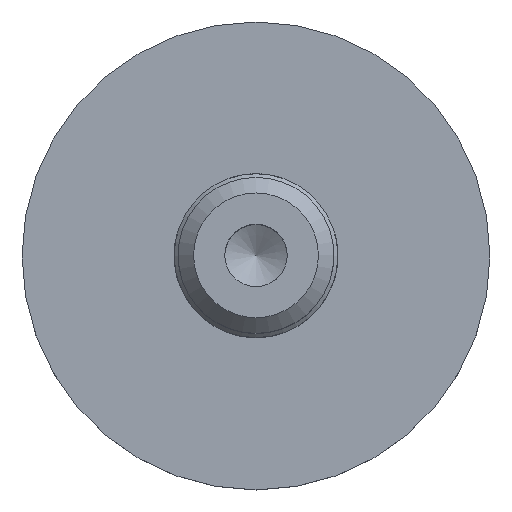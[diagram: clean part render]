
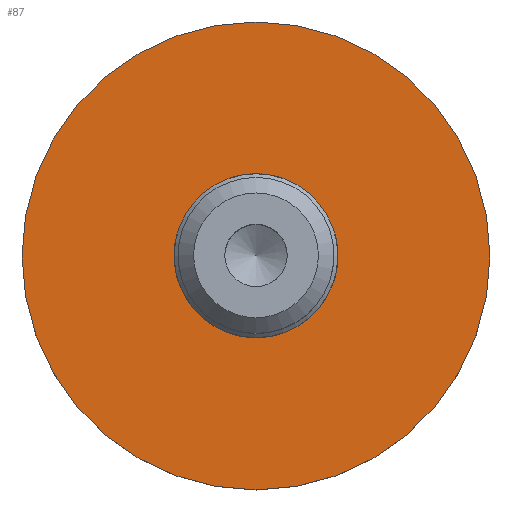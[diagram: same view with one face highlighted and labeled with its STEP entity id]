
A CAD part, top view. The second image highlights one B-rep face of the part: STEP entity #87.
In plain terms, the highlighted planar face has unit normal (0, 0, 1).
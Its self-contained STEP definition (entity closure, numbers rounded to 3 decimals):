
#87=ADVANCED_FACE('',(#149,#150),#151,.T.);
#149=FACE_BOUND('',#239,.T.);
#150=FACE_OUTER_BOUND('',#240,.T.);
#151=PLANE('',#241);
#239=EDGE_LOOP('',(#375));
#240=EDGE_LOOP('',(#376));
#241=AXIS2_PLACEMENT_3D('',#377,#378,#379);
#375=ORIENTED_EDGE('',*,*,#537,.T.);
#376=ORIENTED_EDGE('',*,*,#563,.F.);
#377=CARTESIAN_POINT('',(15.,0.0,7.0));
#378=DIRECTION('',(0.0,0.,1.0));
#379=DIRECTION('',(0.0,-1.0,0.));
#537=EDGE_CURVE('',#616,#616,#617,.T.);
#563=EDGE_CURVE('',#659,#659,#660,.T.);
#616=VERTEX_POINT('',#959);
#617=CIRCLE('',#960,5.25);
#659=VERTEX_POINT('',#1094);
#660=CIRCLE('',#1095,15.);
#959=CARTESIAN_POINT('',(0.0,5.25,7.0));
#960=AXIS2_PLACEMENT_3D('',#1207,#1208,#1209);
#1094=CARTESIAN_POINT('',(0.0,15.,7.0));
#1095=AXIS2_PLACEMENT_3D('',#1263,#1264,#1265);
#1207=CARTESIAN_POINT('',(0.0,0.0,7.0));
#1208=DIRECTION('',(0.0,0.,-1.0));
#1209=DIRECTION('',(0.0,1.0,0.));
#1263=CARTESIAN_POINT('',(0.0,0.0,7.0));
#1264=DIRECTION('',(0.0,0.,-1.0));
#1265=DIRECTION('',(0.0,1.0,0.));
